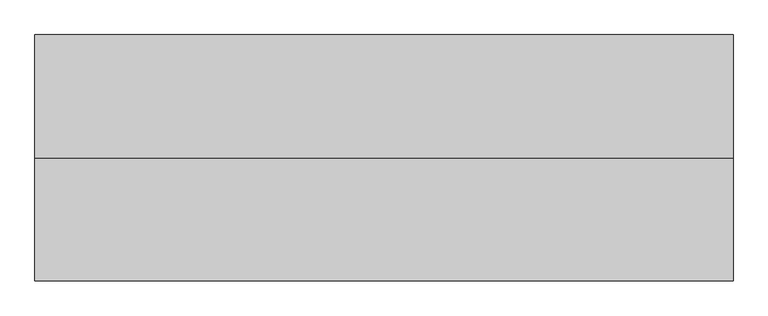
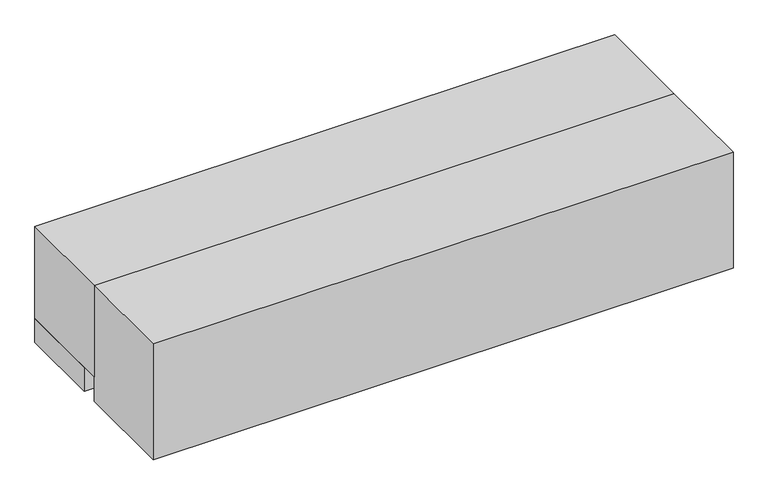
"""IFC4 building model written with IfcOpenShell, lengths in millimetres: proxy geometry, Exposed_Low_Boy_Fan_Coil_Unit Fan_-_LXA_-_IEC_-_2-Pipe_RH_2022 : Size 06 - 277v/60Hz/1Ph - 2/1 Coil."""

from ifc_helpers import new_model, si_unit, point, frame, frame_2d, origin, origin_with_axes, place, context, project, spatial, polyline, circle_curve, trimmed, segment, composite_curve, outline, extrude, faceted_brep, source, transform, mapped, element, save


def mechanical_equipment_f1039a7d(model_context):
    return source(origin(), model_context, "Body", "SolidModel", [
        faceted_brep([(1816.1, -266.7, 114.3), (1638.3, -266.7, 114.3), (1638.3, -520.7, 114.3), (1816.1, -520.7, 114.3), (1641.475, -269.875, 114.3), (1812.925, -269.875, 114.3), (1812.925, -517.525, 114.3), (1641.475, -517.525, 114.3), (1816.1, -266.7, 88.9), (1816.1, -520.7, 88.9), (1638.3, -520.7, 88.9), (1638.3, -266.7, 88.9), (1812.925, -269.875, 92.0747888), (1641.475, -269.875, 92.0747888), (1641.475, -517.525, 92.0747888), (1812.925, -517.525, 92.0747888)], [[[0, 1, 2, 3], [4, 5, 6, 7]], [[8, 9, 10, 11]], [[1, 0, 8, 11]], [[2, 1, 11, 10]], [[3, 2, 10, 9]], [[0, 3, 9, 8]], [[12, 13, 14, 15]], [[13, 12, 5, 4]], [[14, 13, 4, 7]], [[15, 14, 7, 6]], [[12, 15, 6, 5]]]),
        extrude(outline(composite_curve([segment(trimmed(circle_curve(frame_2d((1727.2, -393.7)), 9.525), [point((1717.675, -393.7))], [point((1736.725, -393.7))], False, "CARTESIAN"), True, "CONTINUOUS"), segment(trimmed(circle_curve(frame_2d((1727.2, -393.7)), 9.525), [point((1736.725, -393.7))], [point((1717.675, -393.7))], False, "CARTESIAN"), True, "CONTINUOUS")], self_intersect=False)), frame((0.0, 0.0, 63.5), z_axis=(0.0, 0.0, 1.0), x_axis=(1.0, 0.0, 0.0)), (0.0, 0.0, 1.0), 25.4),
        extrude(outline(polyline([(222.6730703, 1763.7868862), (212.725, 1795.9602728), (354.8959244, 1795.9602728), (331.8739183, 1763.7868862), (222.6730703, 1763.7868862)])), frame((0.0, -546.1, 0.0), z_axis=(0.0, 1.0, 0.0), x_axis=(0.0, 0.0, 1.0)), (0.0, 0.0, 1.0), 3.175),
        extrude(outline(polyline([(301.6723557, 1802.7186058), (298.4699632, 1828.8), (327.6988042, 1828.8), (335.7632193, 1802.7186058), (301.6723557, 1802.7186058)])), frame((0.0, -546.1, 0.0), z_axis=(0.0, 1.0, 0.0), x_axis=(0.0, 0.0, 1.0)), (0.0, 0.0, 1.0), 3.175),
        extrude(outline(polyline([(249.8088288, 1828.8), (246.1433279, 1802.7186058), (212.725, 1802.7186058), (221.3592372, 1828.8), (249.8088288, 1828.8)])), frame((0.0, -546.1, 0.0), z_axis=(0.0, 1.0, 0.0), x_axis=(0.0, 0.0, 1.0)), (0.0, 0.0, 1.0), 3.175),
        extrude(outline(polyline([(289.1239903, 1828.8), (291.4058166, 1802.7186058), (255.4682681, 1802.7186058), (258.2095331, 1828.8), (289.1239903, 1828.8)])), frame((0.0, -546.1, 0.0), z_axis=(0.0, 1.0, 0.0), x_axis=(0.0, 0.0, 1.0)), (0.0, 0.0, 1.0), 3.175),
        faceted_brep([(1879.6, -238.125, 365.125), (152.4, -238.125, 365.125), (152.4, -542.925, 365.125), (1879.6, -542.925, 365.125), (1879.6, -238.125, 76.2), (1879.6, -542.925, 76.2), (152.4, -542.925, 76.2), (152.4, -238.125, 76.2), (165.1, -238.125, 76.2), (165.1, -517.525, 76.2), (393.7, -517.525, 76.2), (393.7, -238.125, 76.2), (1638.3, -238.125, 76.2), (1638.3, -517.525, 76.2), (1866.9, -517.525, 76.2), (1866.9, -238.125, 76.2), (1866.9, -238.125, 339.725), (1638.3, -238.125, 339.725), (393.7, -238.125, 339.725), (165.1, -238.125, 339.725), (1866.9, -517.525, 339.725), (1638.3, -517.525, 339.725), (393.7, -517.525, 339.725), (165.1, -517.525, 339.725)], [[[0, 1, 2, 3]], [[4, 5, 6, 7, 8, 9, 10, 11, 12, 13, 14, 15]], [[1, 0, 4, 15, 16, 17, 12, 11, 18, 19, 8, 7]], [[2, 1, 7, 6]], [[3, 2, 6, 5]], [[0, 3, 5, 4]], [[16, 20, 21, 17]], [[18, 22, 23, 19]], [[17, 21, 13, 12]], [[21, 20, 14, 13]], [[20, 16, 15, 14]], [[19, 23, 9, 8]], [[23, 22, 10, 9]], [[22, 18, 11, 10]]]),
        extrude(outline(polyline([(1638.3, -492.125), (393.7, -492.125), (393.7, -244.475), (1638.3, -244.475), (1638.3, -492.125)])), origin_with_axes(), (0.0, 0.0, 1.0), 6.35),
        extrude(outline(polyline([(1638.3, -238.125), (1638.3, -244.475), (393.7, -244.475), (393.7, -238.125), (1638.3, -238.125)])), origin_with_axes(), (0.0, 0.0, 1.0), 76.2),
        extrude(outline(polyline([(1879.6, -238.125), (1879.6, -492.125), (1638.3, -492.125), (1638.3, -238.125), (1879.6, -238.125)]), holes=[polyline([(1651.0, -485.775), (1866.9, -485.775), (1866.9, -244.475), (1651.0, -244.475), (1651.0, -485.775)])]), origin_with_axes(), (0.0, 0.0, 1.0), 76.2),
        extrude(outline(polyline([(393.7, -238.125), (393.7, -492.125), (152.4, -492.125), (152.4, -238.125), (393.7, -238.125)]), holes=[polyline([(381.0, -244.475), (165.1, -244.475), (165.1, -485.775), (381.0, -485.775), (381.0, -244.475)])]), origin_with_axes(), (0.0, 0.0, 1.0), 76.2),
        extrude(outline(composite_curve([segment(trimmed(circle_curve(frame_2d((-485.775, 227.0125)), 7.9375), [point((-485.775, 219.075))], [point((-485.775, 234.95))], False, "CARTESIAN"), True, "CONTINUOUS"), segment(trimmed(circle_curve(frame_2d((-485.775, 227.0125)), 7.9375), [point((-485.775, 234.95))], [point((-485.775, 219.075))], False, "CARTESIAN"), True, "CONTINUOUS")], self_intersect=False)), frame((1638.3, 0.0, 0.0), z_axis=(1.0, 0.0, 0.0), x_axis=(0.0, 1.0, 0.0)), (0.0, 0.0, 1.0), 50.8),
        extrude(outline(composite_curve([segment(trimmed(circle_curve(frame_2d((-269.875, 273.05)), 7.9375), [point((-269.875, 265.1125))], [point((-269.875, 280.9875))], False, "CARTESIAN"), True, "CONTINUOUS"), segment(trimmed(circle_curve(frame_2d((-269.875, 273.05)), 7.9375), [point((-269.875, 280.9875))], [point((-269.875, 265.1125))], False, "CARTESIAN"), True, "CONTINUOUS")], self_intersect=False)), frame((1638.3, 0.0, 0.0), z_axis=(1.0, 0.0, 0.0), x_axis=(0.0, 1.0, 0.0)), (0.0, 0.0, 1.0), 50.8),
        extrude(outline(polyline([(1879.6, -847.725), (152.4, -847.725), (152.4, -542.925), (1879.6, -542.925), (1879.6, -847.725)])), origin_with_axes(), (0.0, 0.0, 1.0), 365.125),
    ])


if __name__ == "__main__":
    model = new_model("IFC4")
    model_context = context("Model", 3, world=origin())
    ifc_project = project(units=[si_unit("LENGTHUNIT", "METRE", prefix="MILLI")], contexts=[model_context])
    site = spatial("IfcSite", under=ifc_project)
    building = spatial("IfcBuilding", under=site)
    placement = place(None, origin())
    mechanical_equipment_shape = mechanical_equipment_f1039a7d(model_context)
    element("IfcBuildingElementProxy", 1, Name="Exposed_Low_Boy_Fan_Coil_Unit Fan_-_LXA_-_IEC_-_2-Pipe_RH_2022 : Size 06 - 277v/60Hz/1Ph - 2/1 Coil", ObjectType="Exposed_Low_Boy_Fan_Coil_Unit Fan_-_LXA_-_IEC_-_2-Pipe_RH_2022 : Size 06 - 277v/60Hz/1Ph - 2/1 Coil", at=placement, inside=building, context=model_context, shape_type="MappedRepresentation", body=[
        mapped(mechanical_equipment_shape, transform((0.0, 0.0, 0.0), x_axis=(1.0, 0.0, 0.0), y_axis=(0.0, 1.0, 0.0), z_axis=(0.0, 0.0, 1.0))),
    ])
    save(model, "model.ifc")
